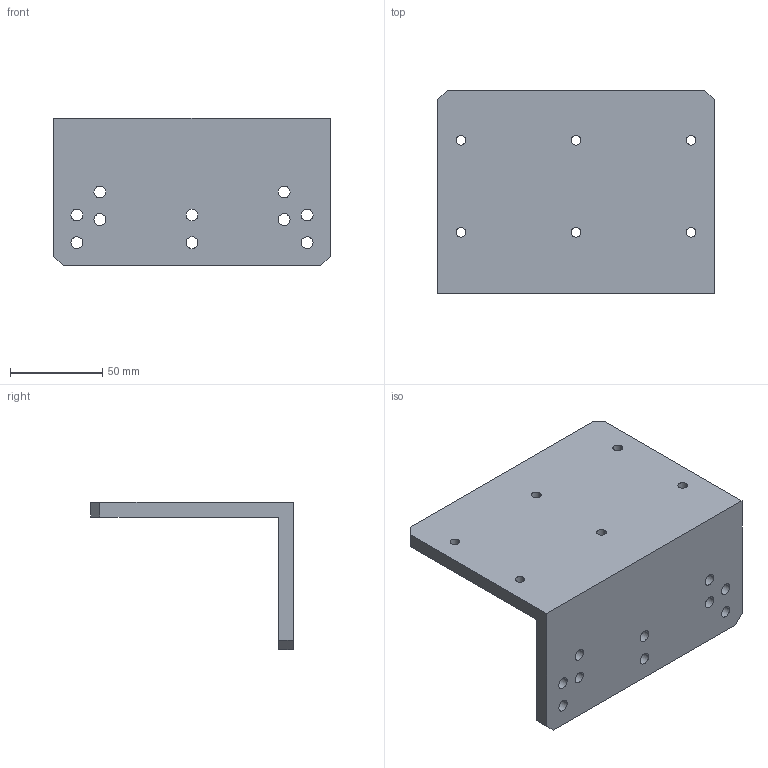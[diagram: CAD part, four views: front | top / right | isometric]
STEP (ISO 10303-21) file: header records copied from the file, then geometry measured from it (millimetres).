
FILE_DESCRIPTION(('CATIA V5 STEP Exchange'),'2;1');
FILE_NAME('D:\姚明阳\1、工装图纸\AG105\AG105.07_V1.stp','2024-04-30T05:13:03+00:00',('none'),('none'),'CATIA Version 5 Release 21 GA (IN-10)','CATIA V5 STEP AP214','none');
FILE_SCHEMA(('AUTOMOTIVE_DESIGN { 1 0 10303 214 1 1 1 1 }'));
Length unit declared in the file: millimetre
Products named in the file (1): Part22
Bounding box: 150 x 110 x 80 mm (x, y, z)
Volume: 214326 mm3; surface area: 61217.5 mm2
Topology: 1 solids, 1 shells, 44 faces, 126 edges, 84 vertices
Faces by surface type: cylinder 32, plane 12
Entity records: 1416 total; most frequent: ORIENTED_EDGE 252, CARTESIAN_POINT 239, DIRECTION 182, EDGE_CURVE 126, AXIS2_PLACEMENT_3D 93, VERTEX_POINT 84, EDGE_LOOP 76, CIRCLE 64
